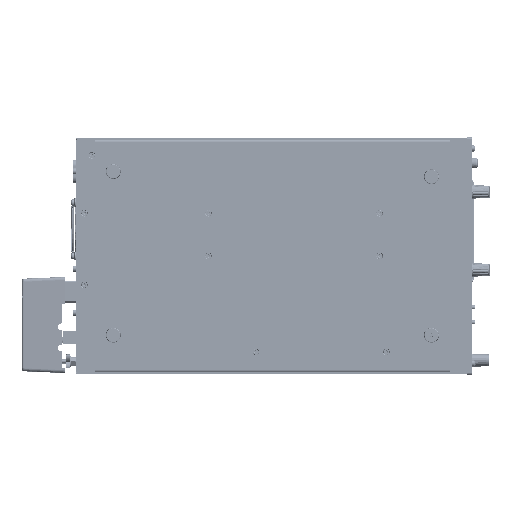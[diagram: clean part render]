
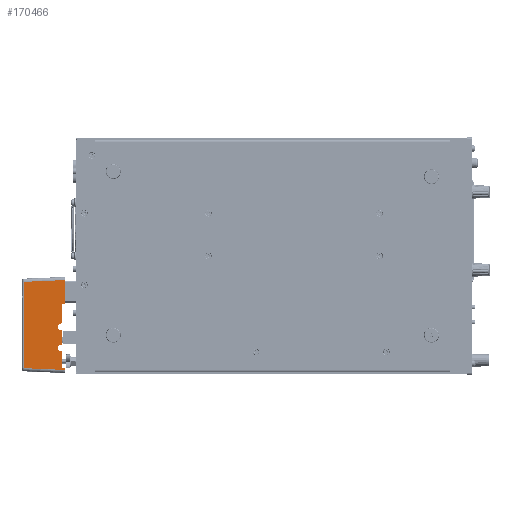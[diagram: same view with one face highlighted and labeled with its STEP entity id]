
A CAD part, front view. The second image highlights one B-rep face of the part: STEP entity #170466.
In plain terms, the highlighted planar face has unit normal (-0.044, -0.999, 0).
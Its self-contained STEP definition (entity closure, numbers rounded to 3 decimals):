
#13381=PLANE('',#181080);
#22508=FACE_OUTER_BOUND('',#32514,.T.);
#32514=EDGE_LOOP('',(#151524,#151525,#151526,#151527,#151528,#151529,#151530,
#151531,#151532,#151533,#151534,#151535,#151536,#151537,#151538,#151539));
#32656=ELLIPSE('',#180789,3.003,3.);
#32677=ELLIPSE('',#180871,3.003,3.);
#50939=LINE('',#295904,#66352);
#50941=LINE('',#295910,#66354);
#50969=LINE('',#295980,#66382);
#51092=LINE('',#296308,#66505);
#51095=LINE('',#296313,#66508);
#51101=LINE('',#296325,#66514);
#51104=LINE('',#296330,#66517);
#51131=LINE('',#296385,#66544);
#51146=LINE('',#296430,#66559);
#51150=LINE('',#296440,#66563);
#51151=LINE('',#296444,#66564);
#51273=LINE('',#296915,#66686);
#51340=LINE('',#297377,#66753);
#51341=LINE('',#297379,#66754);
#66352=VECTOR('',#216594,10.);
#66354=VECTOR('',#216598,10.);
#66382=VECTOR('',#216646,10.);
#66505=VECTOR('',#216853,10.);
#66508=VECTOR('',#216858,10.);
#66514=VECTOR('',#216870,10.);
#66517=VECTOR('',#216875,10.);
#66544=VECTOR('',#216924,10.);
#66559=VECTOR('',#216965,10.);
#66563=VECTOR('',#216979,10.);
#66564=VECTOR('',#216984,10.);
#66686=VECTOR('',#217342,10.);
#66753=VECTOR('',#217583,10.);
#66754=VECTOR('',#217586,10.);
#81508=VERTEX_POINT('',#295898);
#81510=VERTEX_POINT('',#295902);
#81511=VERTEX_POINT('',#295906);
#81513=VERTEX_POINT('',#295909);
#81539=VERTEX_POINT('',#295979);
#81653=VERTEX_POINT('',#296306);
#81654=VERTEX_POINT('',#296307);
#81655=VERTEX_POINT('',#296312);
#81658=VERTEX_POINT('',#296324);
#81659=VERTEX_POINT('',#296328);
#81676=VERTEX_POINT('',#296383);
#81693=VERTEX_POINT('',#296428);
#81694=VERTEX_POINT('',#296436);
#81695=VERTEX_POINT('',#296443);
#81813=VERTEX_POINT('',#296912);
#81814=VERTEX_POINT('',#296914);
#104561=EDGE_CURVE('',#81508,#81510,#50939,.T.);
#104563=EDGE_CURVE('',#81513,#81511,#50941,.T.);
#104567=EDGE_CURVE('',#81510,#81513,#32656,.T.);
#104598=EDGE_CURVE('',#81539,#81508,#50969,.T.);
#104737=EDGE_CURVE('',#81653,#81654,#51092,.T.);
#104740=EDGE_CURVE('',#81655,#81653,#51095,.T.);
#104746=EDGE_CURVE('',#81658,#81539,#51101,.T.);
#104749=EDGE_CURVE('',#81511,#81659,#51104,.T.);
#104778=EDGE_CURVE('',#81659,#81676,#51131,.T.);
#104802=EDGE_CURVE('',#81693,#81654,#51146,.T.);
#104806=EDGE_CURVE('',#81676,#81694,#32677,.T.);
#104807=EDGE_CURVE('',#81694,#81655,#51150,.T.);
#104809=EDGE_CURVE('',#81658,#81695,#51151,.T.);
#104990=EDGE_CURVE('',#81813,#81814,#51273,.T.);
#105078=EDGE_CURVE('',#81814,#81693,#51340,.T.);
#105079=EDGE_CURVE('',#81695,#81813,#51341,.T.);
#151524=ORIENTED_EDGE('',*,*,#104563,.T.);
#151525=ORIENTED_EDGE('',*,*,#104749,.T.);
#151526=ORIENTED_EDGE('',*,*,#104778,.T.);
#151527=ORIENTED_EDGE('',*,*,#104806,.T.);
#151528=ORIENTED_EDGE('',*,*,#104807,.T.);
#151529=ORIENTED_EDGE('',*,*,#104740,.T.);
#151530=ORIENTED_EDGE('',*,*,#104737,.T.);
#151531=ORIENTED_EDGE('',*,*,#104802,.F.);
#151532=ORIENTED_EDGE('',*,*,#105078,.F.);
#151533=ORIENTED_EDGE('',*,*,#104990,.F.);
#151534=ORIENTED_EDGE('',*,*,#105079,.F.);
#151535=ORIENTED_EDGE('',*,*,#104809,.F.);
#151536=ORIENTED_EDGE('',*,*,#104746,.T.);
#151537=ORIENTED_EDGE('',*,*,#104598,.T.);
#151538=ORIENTED_EDGE('',*,*,#104561,.T.);
#151539=ORIENTED_EDGE('',*,*,#104567,.T.);
#170466=ADVANCED_FACE('',(#22508),#13381,.T.);
#180789=AXIS2_PLACEMENT_3D('',#295916,#216605,#216606);
#180871=AXIS2_PLACEMENT_3D('',#296438,#216975,#216976);
#181080=AXIS2_PLACEMENT_3D('',#297378,#217584,#217585);
#216594=DIRECTION('',(-0.998,0.044,0.044));
#216598=DIRECTION('',(0.998,-0.044,0.044));
#216605=DIRECTION('center_axis',(0.044,0.999,0.));
#216606=DIRECTION('ref_axis',(0.999,-0.044,0.));
#216646=DIRECTION('',(0.,0.,1.));
#216853=DIRECTION('',(0.998,-0.044,0.044));
#216858=DIRECTION('',(0.,0.,1.));
#216870=DIRECTION('',(-0.998,0.044,0.044));
#216875=DIRECTION('',(0.,0.,1.));
#216924=DIRECTION('',(-0.998,0.044,0.044));
#216965=DIRECTION('',(0.,0.,-1.));
#216975=DIRECTION('center_axis',(0.044,0.999,0.));
#216976=DIRECTION('ref_axis',(0.999,-0.044,0.));
#216979=DIRECTION('',(0.998,-0.044,0.044));
#216984=DIRECTION('',(0.,0.,-1.));
#217342=DIRECTION('',(0.,0.,1.));
#217583=DIRECTION('',(0.998,-0.044,0.044));
#217584=DIRECTION('center_axis',(-0.044,-0.999,
0.));
#217585=DIRECTION('ref_axis',(0.,0.,
1.));
#217586=DIRECTION('',(-0.998,0.044,0.044));
#295898=CARTESIAN_POINT('',(-383.3,-42.369,-89.126));
#295902=CARTESIAN_POINT('',(-383.931,-42.341,-89.099));
#295904=CARTESIAN_POINT('',(-384.542,-42.315,-89.072));
#295906=CARTESIAN_POINT('',(-383.3,-42.369,-83.077));
#295909=CARTESIAN_POINT('',(-383.931,-42.341,-83.104));
#295910=CARTESIAN_POINT('',(-379.834,-42.52,-82.925));
#295916=CARTESIAN_POINT('Origin',(-383.8,-42.347,-86.102));
#295979=CARTESIAN_POINT('',(-383.3,-42.369,-104.369));
#295980=CARTESIAN_POINT('',(-383.3,-42.369,-53.189));
#296306=CARTESIAN_POINT('',(-383.3,-42.369,-44.631));
#296307=CARTESIAN_POINT('',(-380.3,-42.5,-44.5));
#296308=CARTESIAN_POINT('',(-379.791,-42.522,-44.478));
#296312=CARTESIAN_POINT('',(-383.3,-42.369,-63.077));
#296313=CARTESIAN_POINT('',(-383.3,-42.369,-36.611));
#296324=CARTESIAN_POINT('',(-380.3,-42.5,-104.5));
#296325=CARTESIAN_POINT('',(-382.149,-42.419,-104.419));
#296328=CARTESIAN_POINT('',(-383.3,-42.369,-69.126));
#296330=CARTESIAN_POINT('',(-383.3,-42.369,-53.189));
#296383=CARTESIAN_POINT('',(-383.931,-42.341,-69.099));
#296385=CARTESIAN_POINT('',(-384.107,-42.334,-69.091));
#296428=CARTESIAN_POINT('',(-380.3,-42.5,-22.497));
#296430=CARTESIAN_POINT('',(-380.3,-42.5,-19.5));
#296436=CARTESIAN_POINT('',(-383.931,-42.341,-63.104));
#296438=CARTESIAN_POINT('Origin',(-383.8,-42.347,-66.102));
#296440=CARTESIAN_POINT('',(-380.269,-42.501,-62.944));
#296443=CARTESIAN_POINT('',(-380.3,-42.5,-106.503));
#296444=CARTESIAN_POINT('',(-380.3,-42.5,-19.5));
#296912=CARTESIAN_POINT('',(-418.77,-40.82,-104.823));
#296914=CARTESIAN_POINT('',(-418.77,-40.82,-24.177));
#296915=CARTESIAN_POINT('',(-418.77,-40.82,-42.603));
#297377=CARTESIAN_POINT('',(-381.54,-42.446,-22.551));
#297378=CARTESIAN_POINT('Origin',(-380.3,-42.5,-19.5));
#297379=CARTESIAN_POINT('',(-382.127,-42.42,-106.423));
